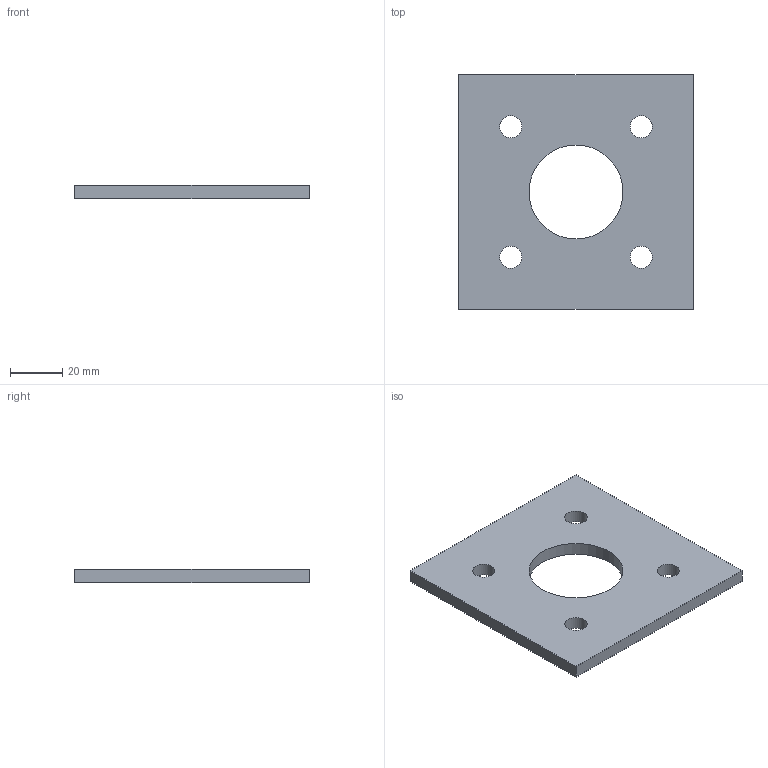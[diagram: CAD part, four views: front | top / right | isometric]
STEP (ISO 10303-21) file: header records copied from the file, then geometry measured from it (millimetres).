
FILE_DESCRIPTION(/* description */ (''),/* implementation_level */ '2;1');
FILE_NAME(/* name */ '2020TOMO-TELAIO.Piedino.Piastrina.3.stp',/* time_stamp */ '2022-05-16T13:06:41+02:00',/* author */ (''),/* organization */ (''),/* preprocessor_version */ 'ST-DEVELOPER v18.102',/* originating_system */ 'SIEMENS PLM Software NX 2000',/* authorisation */ '');
FILE_SCHEMA (('AUTOMOTIVE_DESIGN { 1 0 10303 214 3 1 1 1 }'));
Length unit declared in the file: millimetre
Products named in the file (1): turc3144724Fyy2e
Bounding box: 90 x 90 x 5 mm (x, y, z)
Volume: 34275.7 mm3; surface area: 16609.8 mm2
Topology: 1 solids, 1 shells, 11 faces, 27 edges, 18 vertices
Faces by surface type: plane 6, cylinder 5
Full cylindrical faces by diameter (mm): 8.5 x4, 36 x1
Entity records: 358 total; most frequent: DIRECTION 56, CARTESIAN_POINT 52, ORIENTED_EDGE 44, EDGE_LOOP 26, FACE_BOUND 22, EDGE_CURVE 22, AXIS2_PLACEMENT_3D 22, VERTEX_POINT 18
